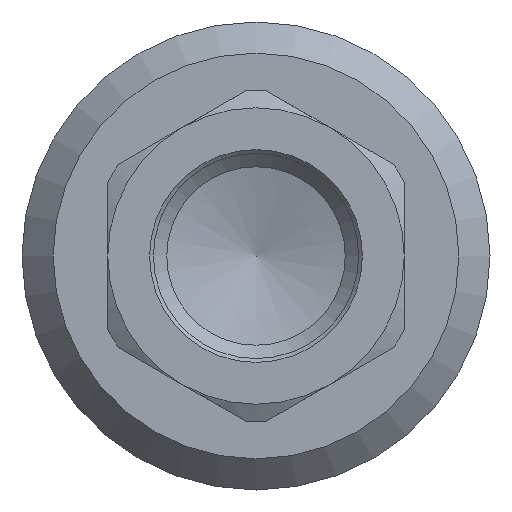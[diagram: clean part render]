
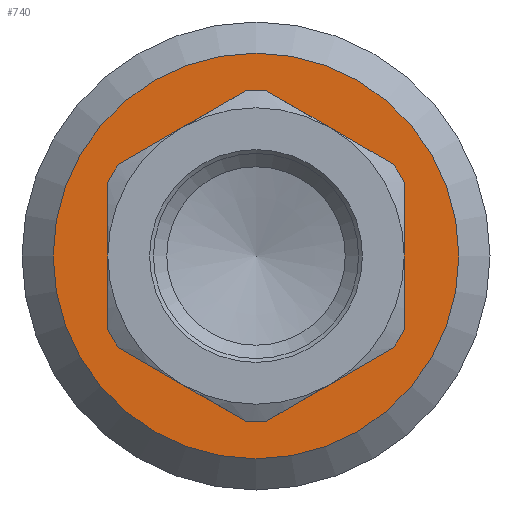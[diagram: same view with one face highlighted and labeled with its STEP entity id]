
A CAD part, left-side view. The second image highlights one B-rep face of the part: STEP entity #740.
In plain terms, the highlighted planar face has unit normal (-1, 0, 0).
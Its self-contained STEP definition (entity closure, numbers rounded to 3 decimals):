
#740=ADVANCED_FACE('', (#750,#760), #770, .T.);
#4480=AXIS2_PLACEMENT_3D('Ax2Pl3d', #4490, #4500, #4510);
#4520=AXIS2_PLACEMENT_3D('Ax2Pl3d', #4530, #4540, #4550);
#4560=AXIS2_PLACEMENT_3D('Ax2Pl3d', #4570, #4580, #4590);
#4490=CARTESIAN_POINT('HicPkt', (27.009,0.,26.907));
#11440=CARTESIAN_POINT('', (27.009,0.,39.907));
#4530=CARTESIAN_POINT('HicPkt', (27.009,0.,39.907));
#4570=CARTESIAN_POINT('HicPkt', (27.009,0.,26.907));
#11450=CARTESIAN_POINT('', (27.009,0.,35.907));
#12970=CIRCLE('Circle', #4480, 13.);
#12980=CIRCLE('Circle', #4560, 9.);
#4500=DIRECTION('Axis', (1.,0.,0.));
#4510=DIRECTION('RefDirection', (0.,0.,-1.));
#4540=DIRECTION('Axis', (-1.,0.,0.))
;
#4550=DIRECTION('RefDirection', (0.,
0.,-1.));
#4580=DIRECTION('Axis', (1.,0.,0.));
#4590=DIRECTION('RefDirection', (0.,0.,-1.));
#18980=EDGE_CURVE('', #18990, #18990, #12970, .T.);
#19000=EDGE_CURVE('', #19010, #19010, #12980, .T.);
#22180=EDGE_LOOP('Edge_loop', (#22190));
#22200=EDGE_LOOP('Edge_loop', (#22210));
#760=FACE_BOUND('', #22200, .T.);
#750=FACE_OUTER_BOUND('Face_outer_bound', #22180, .T.);
#22190=ORIENTED_EDGE('', *, *, #18980, .F.);
#22210=ORIENTED_EDGE('', *, *, #19000, .T.);
#770=PLANE('Plane', #4520);
#18990=VERTEX_POINT('', #11440);
#19010=VERTEX_POINT('', #11450);
